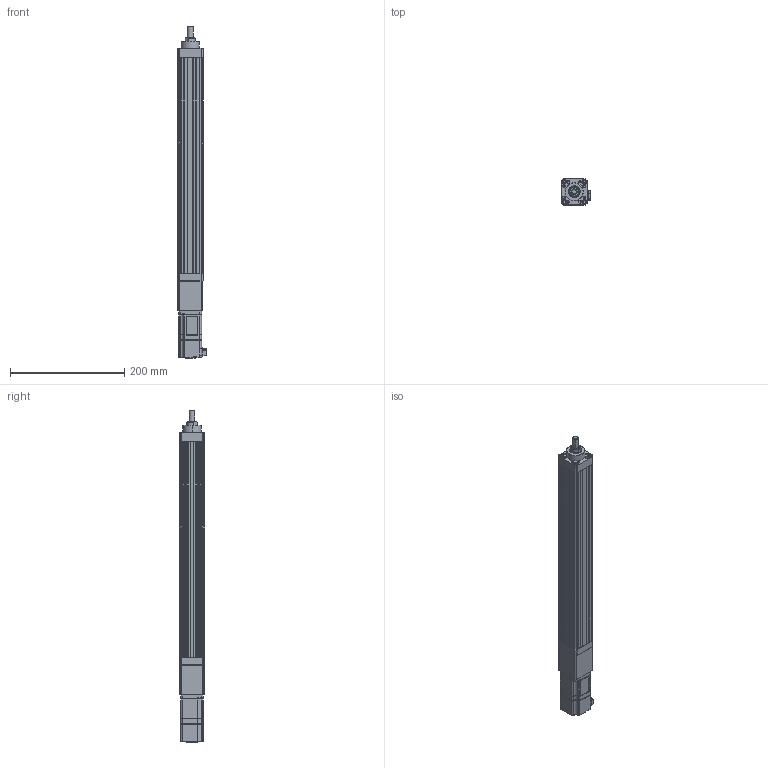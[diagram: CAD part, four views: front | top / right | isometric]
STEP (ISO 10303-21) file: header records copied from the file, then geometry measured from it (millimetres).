
FILE_DESCRIPTION (( 'STEP AP203' ), '1' );
FILE_NAME ('ANS045-S300-05(10)-W10-M.STEP', '2019-02-14T02:54:51', ( 'user' ), ( '' ), 'SwSTEP 2.0', 'SolidWorks 2013', '' );
FILE_SCHEMA (( 'CONFIG_CONTROL_DESIGN' ));
Length unit declared in the file: millimetre
Products named in the file (4): ANS045 S300 VER2; ANS045 ROD ST300 M; SGMJV_01A_A21; ANS045-S300-05(10)-W10-M
Assembly tree (3 placements, depth 2):
  ANS045-S300-05(10)-W10-M
    ANS045 S300 VER2
    ANS045 ROD ST300 M
    SGMJV_01A_A21
Bounding box: 51.3 x 45 x 582.1 mm (x, y, z)
Volume: 740767.8 mm3; surface area: 231388.7 mm2
Topology: 3 solids, 7 shells, 895 faces, 2251 edges, 1404 vertices
Faces by surface type: plane 480, cylinder 305, cone 108, bspline 2
Entity records: 26713 total; most frequent: CARTESIAN_POINT 5040, ORIENTED_EDGE 4438, DIRECTION 4413, EDGE_CURVE 2219, LINE 1507, VECTOR 1507, AXIS2_PLACEMENT_3D 1453, VERTEX_POINT 1404
